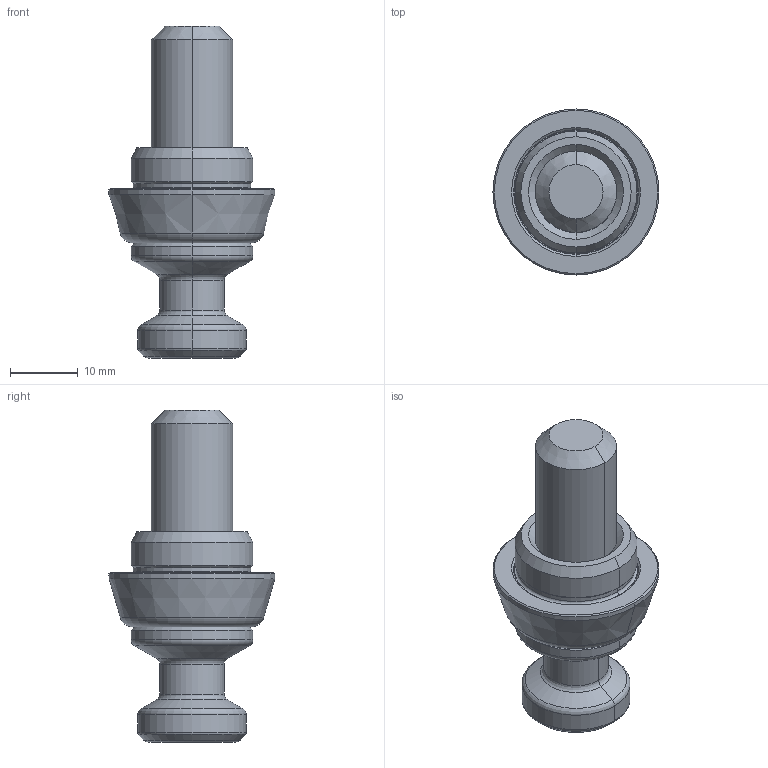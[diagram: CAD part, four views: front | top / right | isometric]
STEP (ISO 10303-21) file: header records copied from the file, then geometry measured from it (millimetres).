
FILE_DESCRIPTION (( 'STEP AP203' ), '1' );
FILE_NAME ('cp155-12001l.STEP', '2021-10-25T23:35:58', ( '' ), ( '' ), 'SwSTEP 2.0', 'SolidWorks 2020', '' );
FILE_SCHEMA (( 'CONFIG_CONTROL_DESIGN' ));
Length unit declared in the file: millimetre
Products named in the file (1): cp155-12001l
Bounding box: 24.5 x 24.5 x 49 mm (x, y, z)
Volume: 9087.4 mm3; surface area: 3257.2 mm2
Topology: 1 solids, 1 shells, 67 faces, 138 edges, 78 vertices
Faces by surface type: cone 24, torus 16, cylinder 14, plane 13
Entity records: 1865 total; most frequent: DIRECTION 346, CARTESIAN_POINT 332, ORIENTED_EDGE 276, AXIS2_PLACEMENT_3D 148, EDGE_CURVE 138, CIRCLE 80, VERTEX_POINT 78, EDGE_LOOP 72
